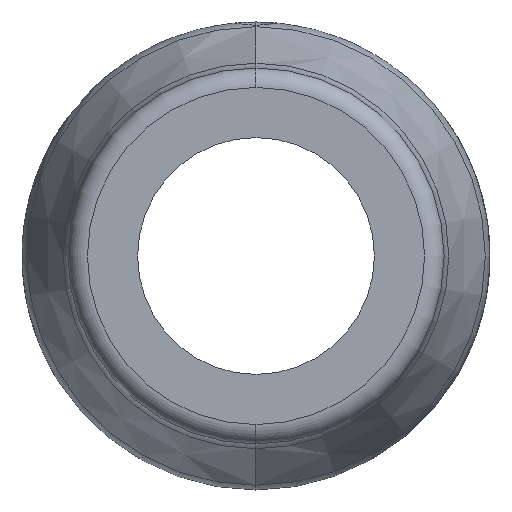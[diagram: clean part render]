
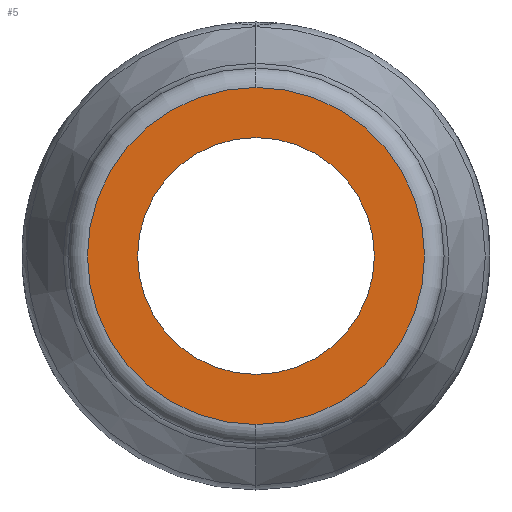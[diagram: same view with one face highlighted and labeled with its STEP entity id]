
A CAD part, left-side view. The second image highlights one B-rep face of the part: STEP entity #5.
In plain terms, the highlighted planar face has unit normal (-1, 0, 0).
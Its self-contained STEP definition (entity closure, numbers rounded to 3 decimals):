
#5 = ADVANCED_FACE ( 'NONE', ( #1044, #622 ), #1260, .F. ) ;
#20 = CARTESIAN_POINT ( 'NONE',  ( 0., 42.5, 0. ) ) ;
#42 = VERTEX_POINT ( 'NONE', #830 ) ;
#62 = EDGE_CURVE ( 'NONE', #42, #1330, #1709, .T. ) ;
#290 = AXIS2_PLACEMENT_3D ( 'NONE', #20, #689, #1836 ) ;
#296 = DIRECTION ( 'NONE',  ( -1., 0., 0. ) ) ;
#314 = CARTESIAN_POINT ( 'NONE',  ( 0., 0., 0. ) ) ;
#321 = CARTESIAN_POINT ( 'NONE',  ( 0., 0., 42.5 ) ) ;
#401 = AXIS2_PLACEMENT_3D ( 'NONE', #314, #296, #1587 ) ;
#454 = EDGE_LOOP ( 'NONE', ( #676, #1210 ) ) ;
#562 = VERTEX_POINT ( 'NONE', #321 ) ;
#605 = AXIS2_PLACEMENT_3D ( 'NONE', #1580, #1570, #1549 ) ;
#622 = FACE_BOUND ( 'NONE', #454, .T. ) ;
#668 = VERTEX_POINT ( 'NONE', #1728 ) ;
#676 = ORIENTED_EDGE ( 'NONE', *, *, #1392, .F. ) ;
#689 = DIRECTION ( 'NONE',  ( 1., 0., 0. ) ) ;
#767 = DIRECTION ( 'NONE',  ( -1., 0., 0. ) ) ;
#830 = CARTESIAN_POINT ( 'NONE',  ( 0., 0., 60.5 ) ) ;
#837 = CIRCLE ( 'NONE', #1899, 60.5 ) ;
#838 = CARTESIAN_POINT ( 'NONE',  ( 0., 0., -60.5 ) ) ;
#903 = ORIENTED_EDGE ( 'NONE', *, *, #1519, .T. ) ;
#908 = CARTESIAN_POINT ( 'NONE',  ( 0., 0., 0. ) ) ;
#1044 = FACE_OUTER_BOUND ( 'NONE', #1564, .T. ) ;
#1210 = ORIENTED_EDGE ( 'NONE', *, *, #1253, .F. ) ;
#1253 = EDGE_CURVE ( 'NONE', #668, #562, #1795, .T. ) ;
#1260 = PLANE ( 'NONE',  #290 ) ;
#1330 = VERTEX_POINT ( 'NONE', #838 ) ;
#1335 = AXIS2_PLACEMENT_3D ( 'NONE', #908, #767, #1793 ) ;
#1392 = EDGE_CURVE ( 'NONE', #562, #668, #1700, .T. ) ;
#1519 = EDGE_CURVE ( 'NONE', #1330, #42, #837, .T. ) ;
#1533 = ORIENTED_EDGE ( 'NONE', *, *, #62, .T. ) ;
#1549 = DIRECTION ( 'NONE',  ( 0., 0., 1. ) ) ;
#1564 = EDGE_LOOP ( 'NONE', ( #903, #1533 ) ) ;
#1570 = DIRECTION ( 'NONE',  ( -1., 0., 0. ) ) ;
#1580 = CARTESIAN_POINT ( 'NONE',  ( 0., 0., 0. ) ) ;
#1587 = DIRECTION ( 'NONE',  ( 0., 0., -1. ) ) ;
#1698 = DIRECTION ( 'NONE',  ( 0., 0., -1. ) ) ;
#1700 = CIRCLE ( 'NONE', #1335, 42.5 ) ;
#1709 = CIRCLE ( 'NONE', #401, 60.5 ) ;
#1728 = CARTESIAN_POINT ( 'NONE',  ( 0., 0., -42.5 ) ) ;
#1793 = DIRECTION ( 'NONE',  ( 0., 0., 1. ) ) ;
#1795 = CIRCLE ( 'NONE', #605, 42.5 ) ;
#1815 = DIRECTION ( 'NONE',  ( -1., 0., 0. ) ) ;
#1825 = CARTESIAN_POINT ( 'NONE',  ( 0., 0., 0. ) ) ;
#1836 = DIRECTION ( 'NONE',  ( 0., 0., -1. ) ) ;
#1899 = AXIS2_PLACEMENT_3D ( 'NONE', #1825, #1815, #1698 ) ;
